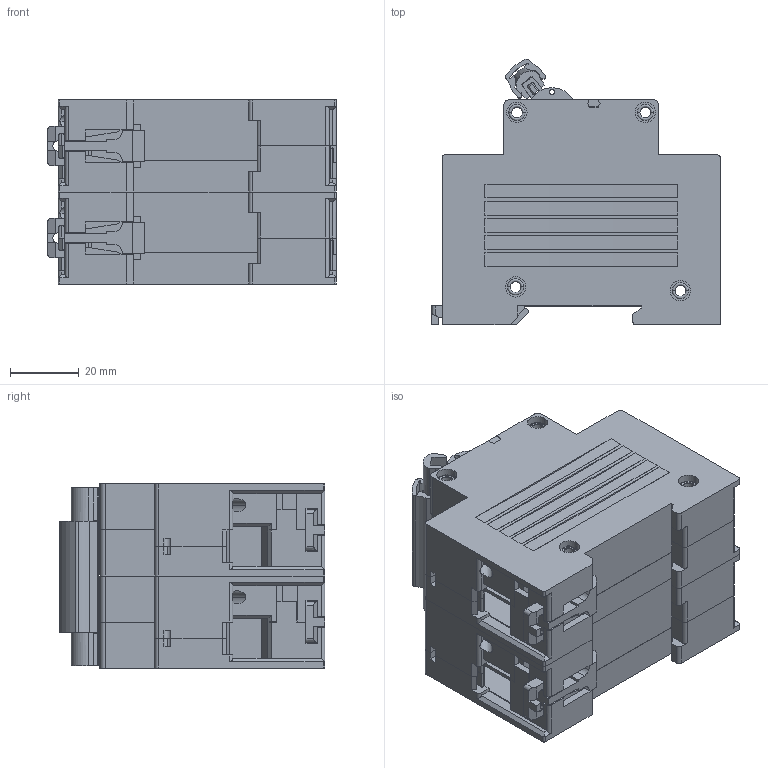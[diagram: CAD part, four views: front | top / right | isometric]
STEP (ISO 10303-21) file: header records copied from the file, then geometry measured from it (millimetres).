
FILE_DESCRIPTION (( 'STEP AP203' ), '1' );
FILE_NAME ('2YJ.292.2301.1-8 BKH-b塑壳断路器（2P）.STEP', '2016-08-20T03:21:05', ( '' ), ( '' ), 'SwSTEP 2.0', 'SolidWorks 2016', '' );
FILE_SCHEMA (( 'CONFIG_CONTROL_DESIGN' ));
Length unit declared in the file: millimetre
Products named in the file (15): 忒梟價釱; 8YJ.960.2300.1-4 穩隊_2P; 忒梟; 芢裝; 假蚾縐; 8YJ.024.2301 底座（多极）; 忒梟杶ㄗ2Pㄘ; 8YJ.288.2301 忒梟囀粟銅; 8YJ.0315.2301 盖（多极）; 忒梟杶蜇璃; 弝敦; 8YJ.315.2300 等憤裔; 8YJ.024.2300 等憤菁釱; 2YJ.292.2301.1-8 BKH-b塑壳断路器（2P）
Assembly tree (20 placements, depth 3):
  2YJ.292.2301.1-8 BKH-b塑壳断路器（2P）
    8YJ.024.2300 等憤菁釱
    忒梟  x2
      忒梟
      忒梟價釱
      8YJ.288.2301 忒梟囀粟銅
    8YJ.315.2300 等憤裔
    弝敦  x2
    假蚾縐  x2
    8YJ.0315.2301 盖（多极）
    芢裝
    8YJ.024.2301 底座（多极）
    8YJ.960.2300.1-4 穩隊_2P  x4
    忒梟杶ㄗ2Pㄘ
    忒梟杶蜇璃
Bounding box: 84 x 77.38 x 53.6 mm (x, y, z)
Volume: 86245.8 mm3; surface area: 112028.6 mm2
Topology: 21 solids, 21 shells, 2706 faces, 7435 edges, 4871 vertices
Faces by surface type: plane 1841, cylinder 753, cone 66, torus 38, bspline 8
Entity records: 83379 total; most frequent: CARTESIAN_POINT 17346, ORIENTED_EDGE 13612, DIRECTION 13178, EDGE_CURVE 6806, VECTOR 5268, LINE 5268, VERTEX_POINT 4461, AXIS2_PLACEMENT_3D 3955
